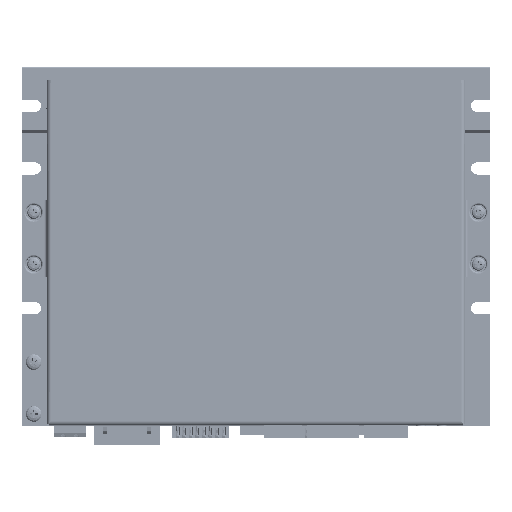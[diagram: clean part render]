
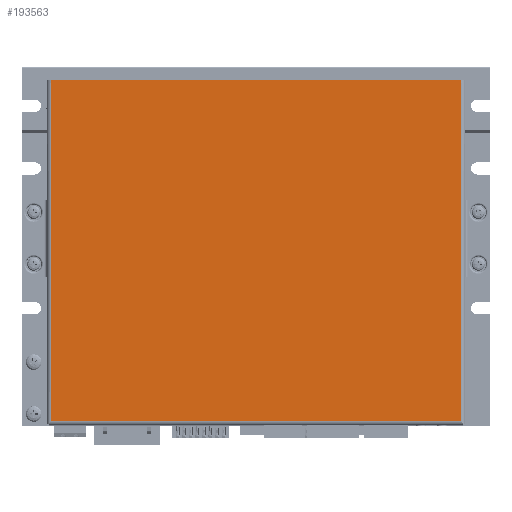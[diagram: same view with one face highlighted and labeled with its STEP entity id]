
A CAD part, top view. The second image highlights one B-rep face of the part: STEP entity #193563.
In plain terms, the highlighted planar face has unit normal (0, 0, 1).
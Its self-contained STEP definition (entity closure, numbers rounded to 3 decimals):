
#18303=LINE('',#288954,#35739);
#18330=LINE('',#289053,#35766);
#18331=LINE('',#289055,#35767);
#18332=LINE('',#289057,#35768);
#35739=VECTOR('',#238263,1000.);
#35766=VECTOR('',#238380,1000.);
#35767=VECTOR('',#238381,1000.);
#35768=VECTOR('',#238382,1000.);
#73155=ORIENTED_EDGE('',*,*,#100388,.T.);
#73156=ORIENTED_EDGE('',*,*,#100389,.T.);
#73157=ORIENTED_EDGE('',*,*,#100390,.T.);
#73158=ORIENTED_EDGE('',*,*,#100342,.T.);
#100342=EDGE_CURVE('',#116592,#116591,#18303,.T.);
#100388=EDGE_CURVE('',#116591,#116619,#18330,.T.);
#100389=EDGE_CURVE('',#116619,#116620,#18331,.T.);
#100390=EDGE_CURVE('',#116620,#116592,#18332,.T.);
#116591=VERTEX_POINT('',#288953);
#116592=VERTEX_POINT('',#288955);
#116619=VERTEX_POINT('',#289054);
#116620=VERTEX_POINT('',#289056);
#128130=EDGE_LOOP('',(#73155,#73156,#73157,#73158));
#137959=FACE_BOUND('',#128130,.T.);
#145045=PLANE('',#204964);
#193563=ADVANCED_FACE('',(#137959),#145045,.T.);
#204964=AXIS2_PLACEMENT_3D('',#289052,#238378,#238379);
#238263=DIRECTION('',(-1.,0.,0.));
#238378=DIRECTION('',(0.,0.,1.));
#238379=DIRECTION('',(1.,0.,0.));
#238380=DIRECTION('',(0.,-1.,0.));
#238381=DIRECTION('',(1.,0.,0.));
#238382=DIRECTION('',(0.,1.,0.));
#288953=CARTESIAN_POINT('',(-79.05,66.75,0.));
#288954=CARTESIAN_POINT('',(80.75,66.75,0.));
#288955=CARTESIAN_POINT('',(79.05,66.75,0.));
#289052=CARTESIAN_POINT('',(0.,0.,0.));
#289053=CARTESIAN_POINT('',(-79.05,66.75,0.));
#289054=CARTESIAN_POINT('',(-79.05,-65.05,0.));
#289055=CARTESIAN_POINT('',(-79.05,-65.05,0.));
#289056=CARTESIAN_POINT('',(79.05,-65.05,0.));
#289057=CARTESIAN_POINT('',(79.05,-66.75,0.));
